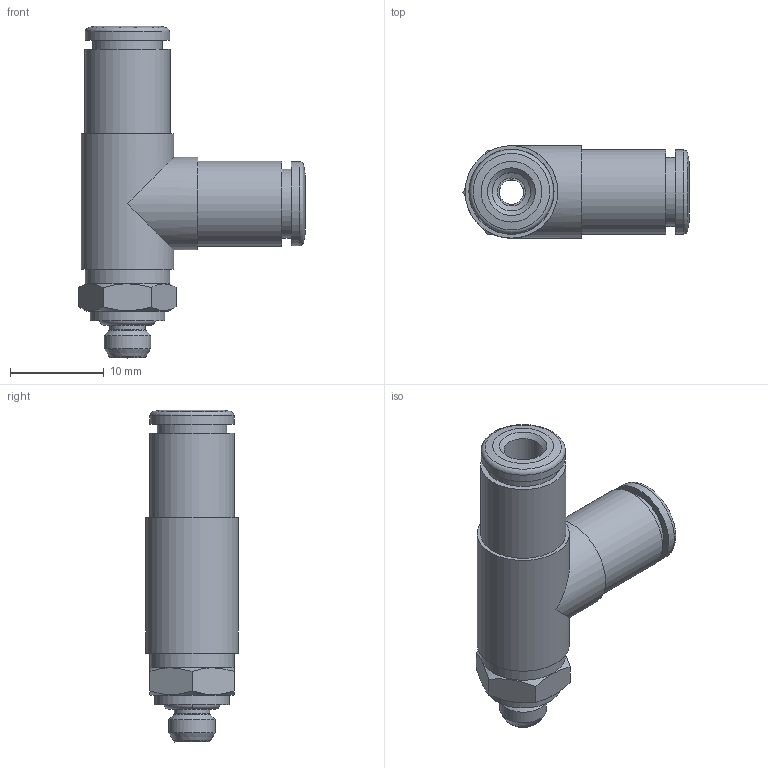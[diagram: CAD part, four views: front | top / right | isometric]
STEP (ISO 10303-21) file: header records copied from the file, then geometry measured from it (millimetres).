
FILE_DESCRIPTION(('Bauteilbeschreibung','HiCAD-Model','HiCAD-STEP-TRANSLATION','Bauteilbeschreibung'),'2;1');
FILE_NAME('B:/ABGLEICH/ZEICHNUNGEN/STEP FÜR INTERNET/STEP/IPSO 021/202100_IPSO_021_4_M5.STP','2012-10-23T14:55:01+00:00',('Konstrukteur'),('Konstrukteur Firma GmbH'),' HiCAD neXt 2008, Step 3.1.1401.2J ','HiCAD neXt 2008','confidential');
FILE_SCHEMA(('AUTOMOTIVE_DESIGN { 1 2 10303 214 0 1 1 1 }'));
Length unit declared in the file: millimetre
Products named in the file (8): A02100_IPSO_021_4_M5; OR 4X1_2; A14601_N2; A146010N2; DIN 13_M5; DR4_1_NEU; DR4010NEU; R202100_N1_N2
Assembly tree (7 placements, depth 3):
  A02100_IPSO_021_4_M5
    OR 4X1_2
    A14601_N2
    A146010N2
      DIN 13_M5
    DR4_1_NEU
    DR4010NEU
    R202100_N1_N2
Bounding box: 24.2 x 9.9 x 35.5 mm (x, y, z)
Volume: 2292.5 mm3; surface area: 3387.7 mm2
Topology: 6 solids, 6 shells, 96 faces, 198 edges, 122 vertices
Faces by surface type: cylinder 32, cone 28, plane 28, torus 8
Full cylindrical faces by diameter (mm): 2.6 x1, 3 x2, 3.8 x1, 4.019 x2, 4.1 x4, 5 x1, 6 x1, 6.4 x2, 6.8 x2, 7.3 x2, 7.4 x2, 7.6 x2, 7.85 x1, 7.9 x1, 8 x1, 9 x3, 9.1 x2, 9.9 x2
Entity records: 3449 total; most frequent: CARTESIAN_POINT 1009, DIRECTION 414, ORIENTED_EDGE 228, AXIS2_PLACEMENT_3D 204, EDGE_LOOP 184, EDGE_CURVE 114, COLOUR_RGB 110, PRESENTATION_STYLE_ASSIGNMENT 110
